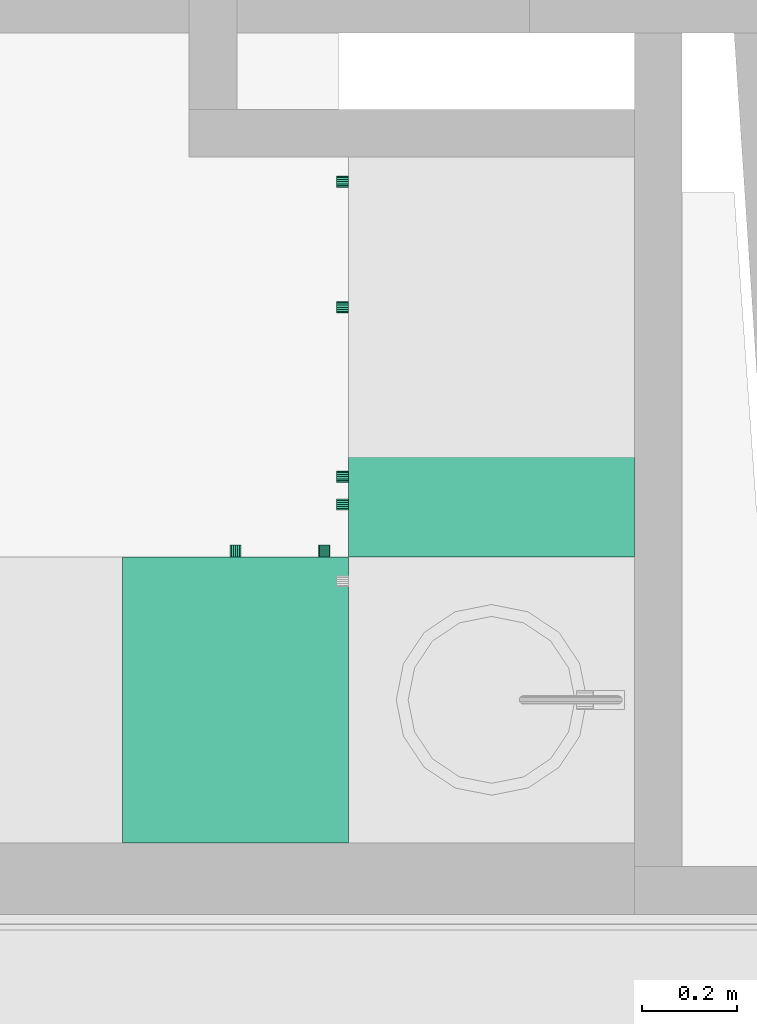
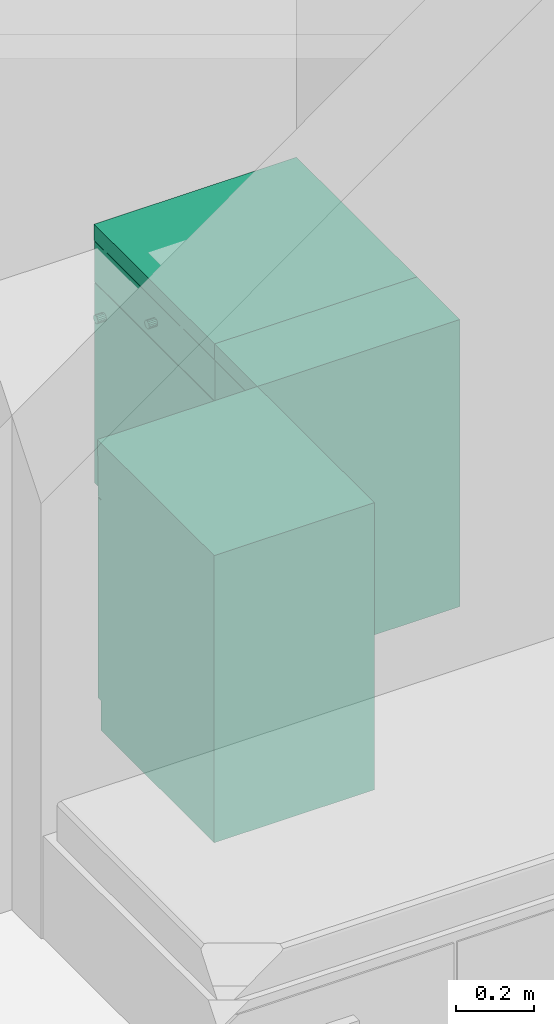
# One storey, part 52 of 165: 3 flow terminals.
"""IFC2X3 building model written with IfcOpenShell, lengths in millimetres."""

from ifc_helpers import new_model, entity, si_unit, converted_unit, money_unit, direction, frame, origin_with_axes, place, context, subcontext, project, spatial, faceted_brep, material, material_list, type_object, element, save


model = new_model("IFC2X3")

# Units and contexts
model_context = context("Model", 3, precision=1e-05, world=origin_with_axes(), true_north=direction((0.0, 1.0)))
body_context = subcontext(model_context, "Body", "Model", "MODEL_VIEW")
ifc_project = project(units=[si_unit("LENGTHUNIT", "METRE", prefix="MILLI"), si_unit("AREAUNIT", "SQUARE_METRE"), si_unit("VOLUMEUNIT", "CUBIC_METRE"), converted_unit("PLANEANGLEUNIT", "DEGREE", entity("IfcPlaneAngleMeasure", 0.0174532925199), si_unit("PLANEANGLEUNIT", "RADIAN"), dimensions=[0, 0, 0, 0, 0, 0, 0]), si_unit("SOLIDANGLEUNIT", "STERADIAN"), money_unit("USD"), converted_unit("TIMEUNIT", "Year", entity("IfcTimeMeasure", 31556926.0), si_unit("TIMEUNIT", "SECOND"), dimensions=[0, 0, 0, 0, 0, 0, 0]), si_unit("MASSUNIT", "GRAM"), si_unit("THERMODYNAMICTEMPERATUREUNIT", "DEGREE_CELSIUS"), si_unit("LUMINOUSINTENSITYUNIT", "LUMEN")], contexts=[model_context])

# Site, building, storey
site_placement = place(None, origin_with_axes())
site = spatial("IfcSite", under=ifc_project, at=site_placement, Name="Site", CompositionType="ELEMENT")
building_placement = place(site_placement, origin_with_axes())
building = spatial("IfcBuilding", under=site, at=building_placement, Name="Building", CompositionType="ELEMENT")
storey_placement = place(building_placement, frame((0.0, 0.0, 6300.0), z_axis=(0.0, 0.0, 1.0), x_axis=(1.0, 0.0, 0.0)))
storey = spatial("IfcBuildingStorey", under=building, at=storey_placement, Name="4KORRUS", CompositionType="ELEMENT", Elevation=6300.0)

# Flow terminals
ifc_material = material(Name="Background")
ifc_material_list = material_list([ifc_material])
sanitary_terminal_type = type_object("IfcSanitaryTerminalType", Name="Cabinet Base Single Door 19", PredefinedType="SINK")
flow_terminal_1_placement = place(storey_placement, frame((16561.5480058, -15138.0262806, 0.0), z_axis=(0.0, 0.0, 1.0), x_axis=(-1.0, 0.0, 0.0)))
element("IfcFlowTerminal", 1, at=flow_terminal_1_placement, inside=storey, type_object=sanitary_terminal_type, material=ifc_material_list, Name="FU - 007", context=body_context, shape_type="Brep", body=[
    faceted_brep([(-20.0, 20.0, 710.0), (-20.0, 20.0, 730.0), (-454.553, 20.0, 730.0), (-454.553, 20.0, 710.0), (-20.0, 580.0, 710.0), (-20.0, 580.0, 730.0), (-454.553, 580.0, 730.0), (-454.553, 580.0, 710.0)], [[[0, 1, 2, 3]], [[4, 5, 1, 0]], [[1, 5, 6, 2]], [[3, 2, 6, 7]], [[0, 3, 7, 4]], [[7, 6, 5, 4]]]),
    faceted_brep([(0.0, 20.0, 0.0), (0.0, 20.0, 90.0), (-474.553, 20.0, 90.0), (-474.553, 20.0, 0.0), (0.0, 600.0, 0.0), (0.0, 600.0, 90.0), (-474.553, 600.0, 90.0), (-474.553, 600.0, 0.0)], [[[0, 1, 2, 3]], [[4, 5, 1, 0]], [[1, 5, 6, 2]], [[3, 2, 6, 7]], [[0, 3, 7, 4]], [[7, 6, 5, 4]]]),
    faceted_brep([(0.0, 20.0, 830.0), (0.0, 20.0, 850.0), (-20.0, 20.0, 850.0), (-20.0, 20.0, 830.0), (0.0, 600.0, 830.0), (0.0, 600.0, 850.0), (-20.0, 600.0, 850.0), (-454.553, 600.0, 850.0), (-474.553, 600.0, 850.0), (-474.553, 20.0, 850.0), (-454.553, 20.0, 850.0), (-454.553, 20.0, 830.0), (-474.553, 20.0, 830.0), (-474.553, 600.0, 830.0), (-454.553, 600.0, 830.0), (-20.0, 600.0, 830.0)], [[[0, 1, 2, 3]], [[4, 5, 1, 0]], [[1, 5, 6, 7, 8, 9, 10, 2]], [[3, 2, 10, 11]], [[0, 3, 11, 12, 13, 14, 15, 4]], [[15, 6, 5, 4]], [[14, 7, 6, 15]], [[13, 8, 7, 14]], [[12, 9, 8, 13]], [[11, 10, 9, 12]]]),
    faceted_brep([(0.0, 20.0, 90.0), (0.0, 20.0, 110.0), (-20.0, 20.0, 110.0), (-20.0, 20.0, 90.0), (0.0, 600.0, 90.0), (0.0, 600.0, 110.0), (-20.0, 600.0, 110.0), (-454.553, 600.0, 110.0), (-474.553, 600.0, 110.0), (-474.553, 20.0, 110.0), (-454.553, 20.0, 110.0), (-454.553, 20.0, 90.0), (-474.553, 20.0, 90.0), (-474.553, 600.0, 90.0), (-454.553, 600.0, 90.0), (-20.0, 600.0, 90.0)], [[[0, 1, 2, 3]], [[4, 5, 1, 0]], [[1, 5, 6, 7, 8, 9, 10, 2]], [[3, 2, 10, 11]], [[0, 3, 11, 12, 13, 14, 15, 4]], [[15, 6, 5, 4]], [[14, 7, 6, 15]], [[13, 8, 7, 14]], [[12, 9, 8, 13]], [[11, 10, 9, 12]]]),
    faceted_brep([(0.0, 20.0, 110.0), (0.0, 20.0, 830.0), (-20.0, 20.0, 830.0), (-20.0, 20.0, 110.0), (0.0, 600.0, 110.0), (0.0, 600.0, 830.0), (-474.553, 600.0, 830.0), (-474.553, 20.0, 830.0), (-454.553, 20.0, 830.0), (-454.553, 580.0, 830.0), (-20.0, 580.0, 830.0), (-20.0, 580.0, 110.0), (-454.553, 580.0, 110.0), (-454.553, 20.0, 110.0), (-474.553, 20.0, 110.0), (-474.553, 600.0, 110.0)], [[[0, 1, 2, 3]], [[4, 5, 1, 0]], [[1, 5, 6, 7, 8, 9, 10, 2]], [[3, 2, 10, 11]], [[0, 3, 11, 12, 13, 14, 15, 4]], [[15, 6, 5, 4]], [[14, 7, 6, 15]], [[13, 8, 7, 14]], [[12, 9, 8, 13]], [[11, 10, 9, 12]]]),
    faceted_brep([(-454.553, 20.0, 385.0), (-454.553, 20.0, 405.0), (-454.553, 580.0, 405.0), (-454.553, 580.0, 385.0), (-20.0, 20.0, 385.0), (-20.0, 20.0, 405.0), (-20.0, 580.0, 405.0), (-20.0, 580.0, 385.0)], [[[0, 1, 2, 3]], [[4, 5, 1, 0]], [[1, 5, 6, 2]], [[3, 2, 6, 7]], [[0, 3, 7, 4]], [[7, 6, 5, 4]]]),
    faceted_brep([(0.0, 0.0, 850.0), (0.0, 0.0, 900.0), (-474.553, 0.0, 900.0), (-474.553, 0.0, 850.0), (0.0, 600.0, 850.0), (0.0, 600.0, 900.0), (-474.553, 600.0, 900.0), (-474.553, 600.0, 850.0)], [[[0, 1, 2, 3]], [[4, 5, 1, 0]], [[1, 5, 6, 2]], [[3, 2, 6, 7]], [[0, 3, 7, 4]], [[7, 6, 5, 4]]]),
    faceted_brep([(-1.5, 20.0, 721.5), (-1.5, 0.0, 721.5), (-473.053, 0.0, 721.5), (-473.053, 20.0, 721.5), (-1.5, 20.0, 848.5), (-1.5, 0.0, 848.5), (-473.053, 0.0, 848.5), (-473.053, 20.0, 848.5)], [[[0, 1, 2, 3]], [[4, 5, 1, 0]], [[1, 5, 6, 2]], [[3, 2, 6, 7]], [[0, 3, 7, 4]], [[7, 6, 5, 4]]]),
    faceted_brep([(-232.684, 0.0, 773.913), (-237.277, 0.0, 773.0), (-241.869, 0.0, 773.913), (-245.762, 0.0, 776.515), (-248.363, 0.0, 780.408), (-249.277, 0.0, 785.0), (-248.363, 0.0, 789.592), (-245.762, 0.0, 793.485), (-241.869, 0.0, 796.087), (-237.277, 0.0, 797.0), (-232.684, 0.0, 796.087), (-228.791, 0.0, 793.485), (-226.19, 0.0, 789.592), (-225.277, 0.0, 785.0), (-226.19, 0.0, 780.408), (-228.791, 0.0, 776.515), (-232.684, -25.0, 773.913), (-237.277, -25.0, 773.0), (-241.869, -25.0, 773.913), (-245.762, -25.0, 776.515), (-248.363, -25.0, 780.408), (-249.277, -25.0, 785.0), (-248.363, -25.0, 789.592), (-245.762, -25.0, 793.485), (-241.869, -25.0, 796.087), (-237.277, -25.0, 797.0), (-232.684, -25.0, 796.087), (-228.791, -25.0, 793.485), (-226.19, -25.0, 789.592), (-225.277, -25.0, 785.0), (-226.19, -25.0, 780.408), (-228.791, -25.0, 776.515)], [[[0, 1, 2, 3, 4, 5, 6, 7, 8, 9, 10, 11, 12, 13, 14, 15]], [[0, 16, 17, 1]], [[1, 17, 18, 2]], [[2, 18, 19, 3]], [[3, 19, 20, 4]], [[4, 20, 21, 5]], [[5, 21, 22, 6]], [[6, 22, 23, 7]], [[7, 23, 24, 8]], [[8, 24, 25, 9]], [[9, 25, 26, 10]], [[10, 26, 27, 11]], [[11, 27, 28, 12]], [[12, 28, 29, 13]], [[13, 29, 30, 14]], [[14, 30, 31, 15]], [[15, 31, 16, 0]], [[16, 31, 30, 29, 28, 27, 26, 25, 24, 23, 22, 21, 20, 19, 18, 17]]]),
    faceted_brep([(-1.5, 20.0, 91.5), (-1.5, 0.0, 91.5), (-473.053, 0.0, 91.5), (-473.053, 20.0, 91.5), (-1.5, 20.0, 718.5), (-1.5, 0.0, 718.5), (-473.053, 0.0, 718.5), (-473.053, 20.0, 718.5)], [[[0, 1, 2, 3]], [[4, 5, 1, 0]], [[1, 5, 6, 2]], [[3, 2, 6, 7]], [[0, 3, 7, 4]], [[7, 6, 5, 4]]]),
    faceted_brep([(-434.14, 0.0, 636.908), (-435.053, 0.0, 641.5), (-434.14, 0.0, 646.092), (-431.538, 0.0, 649.985), (-427.645, 0.0, 652.587), (-423.053, 0.0, 653.5), (-418.461, 0.0, 652.587), (-414.568, 0.0, 649.985), (-411.967, 0.0, 646.092), (-411.053, 0.0, 641.5), (-411.967, 0.0, 636.908), (-414.568, 0.0, 633.015), (-418.461, 0.0, 630.413), (-423.053, 0.0, 629.5), (-427.645, 0.0, 630.413), (-431.538, 0.0, 633.015), (-434.14, -25.0, 636.908), (-435.053, -25.0, 641.5), (-434.14, -25.0, 646.092), (-431.538, -25.0, 649.985), (-427.645, -25.0, 652.587), (-423.053, -25.0, 653.5), (-418.461, -25.0, 652.587), (-414.568, -25.0, 649.985), (-411.967, -25.0, 646.092), (-411.053, -25.0, 641.5), (-411.967, -25.0, 636.908), (-414.568, -25.0, 633.015), (-418.461, -25.0, 630.413), (-423.053, -25.0, 629.5), (-427.645, -25.0, 630.413), (-431.538, -25.0, 633.015)], [[[0, 1, 2, 3, 4, 5, 6, 7, 8, 9, 10, 11, 12, 13, 14, 15]], [[0, 16, 17, 1]], [[1, 17, 18, 2]], [[2, 18, 19, 3]], [[3, 19, 20, 4]], [[4, 20, 21, 5]], [[5, 21, 22, 6]], [[6, 22, 23, 7]], [[7, 23, 24, 8]], [[8, 24, 25, 9]], [[9, 25, 26, 10]], [[10, 26, 27, 11]], [[11, 27, 28, 12]], [[12, 28, 29, 13]], [[13, 29, 30, 14]], [[14, 30, 31, 15]], [[15, 31, 16, 0]], [[16, 31, 30, 29, 28, 27, 26, 25, 24, 23, 22, 21, 20, 19, 18, 17]]]),
])
flow_terminal_2_placement = place(storey_placement, frame((17036.1011863, -15138.0262806, 0.0), z_axis=(0.0, 0.0, 1.0), x_axis=(0.0, -1.0, 0.0)))
element("IfcFlowTerminal", 2, at=flow_terminal_2_placement, inside=storey, type_object=sanitary_terminal_type, material=ifc_material_list, Name="FU - 007", context=body_context, shape_type="Brep", body=[
    faceted_brep([(-20.0, 20.0, 710.0), (-20.0, 20.0, 730.0), (-200.0, 20.0, 730.0), (-200.0, 20.0, 710.0), (-20.0, 580.0, 710.0), (-20.0, 580.0, 730.0), (-200.0, 580.0, 730.0), (-200.0, 580.0, 710.0)], [[[0, 1, 2, 3]], [[4, 5, 1, 0]], [[1, 5, 6, 2]], [[3, 2, 6, 7]], [[0, 3, 7, 4]], [[7, 6, 5, 4]]]),
    faceted_brep([(0.0, 20.0, 0.0), (0.0, 20.0, 90.0), (-220.0, 20.0, 90.0), (-220.0, 20.0, 0.0), (0.0, 600.0, 0.0), (0.0, 600.0, 90.0), (-220.0, 600.0, 90.0), (-220.0, 600.0, 0.0)], [[[0, 1, 2, 3]], [[4, 5, 1, 0]], [[1, 5, 6, 2]], [[3, 2, 6, 7]], [[0, 3, 7, 4]], [[7, 6, 5, 4]]]),
    faceted_brep([(0.0, 20.0, 830.0), (0.0, 20.0, 850.0), (-20.0, 20.0, 850.0), (-20.0, 20.0, 830.0), (0.0, 600.0, 830.0), (0.0, 600.0, 850.0), (-20.0, 600.0, 850.0), (-200.0, 600.0, 850.0), (-220.0, 600.0, 850.0), (-220.0, 20.0, 850.0), (-200.0, 20.0, 850.0), (-200.0, 20.0, 830.0), (-220.0, 20.0, 830.0), (-220.0, 600.0, 830.0), (-200.0, 600.0, 830.0), (-20.0, 600.0, 830.0)], [[[0, 1, 2, 3]], [[4, 5, 1, 0]], [[1, 5, 6, 7, 8, 9, 10, 2]], [[3, 2, 10, 11]], [[0, 3, 11, 12, 13, 14, 15, 4]], [[15, 6, 5, 4]], [[14, 7, 6, 15]], [[13, 8, 7, 14]], [[12, 9, 8, 13]], [[11, 10, 9, 12]]]),
    faceted_brep([(0.0, 20.0, 90.0), (0.0, 20.0, 110.0), (-20.0, 20.0, 110.0), (-20.0, 20.0, 90.0), (0.0, 600.0, 90.0), (0.0, 600.0, 110.0), (-20.0, 600.0, 110.0), (-200.0, 600.0, 110.0), (-220.0, 600.0, 110.0), (-220.0, 20.0, 110.0), (-200.0, 20.0, 110.0), (-200.0, 20.0, 90.0), (-220.0, 20.0, 90.0), (-220.0, 600.0, 90.0), (-200.0, 600.0, 90.0), (-20.0, 600.0, 90.0)], [[[0, 1, 2, 3]], [[4, 5, 1, 0]], [[1, 5, 6, 7, 8, 9, 10, 2]], [[3, 2, 10, 11]], [[0, 3, 11, 12, 13, 14, 15, 4]], [[15, 6, 5, 4]], [[14, 7, 6, 15]], [[13, 8, 7, 14]], [[12, 9, 8, 13]], [[11, 10, 9, 12]]]),
    faceted_brep([(0.0, 20.0, 110.0), (0.0, 20.0, 830.0), (-20.0, 20.0, 830.0), (-20.0, 20.0, 110.0), (0.0, 600.0, 110.0), (0.0, 600.0, 830.0), (-220.0, 600.0, 830.0), (-220.0, 20.0, 830.0), (-200.0, 20.0, 830.0), (-200.0, 580.0, 830.0), (-20.0, 580.0, 830.0), (-20.0, 580.0, 110.0), (-200.0, 580.0, 110.0), (-200.0, 20.0, 110.0), (-220.0, 20.0, 110.0), (-220.0, 600.0, 110.0)], [[[0, 1, 2, 3]], [[4, 5, 1, 0]], [[1, 5, 6, 7, 8, 9, 10, 2]], [[3, 2, 10, 11]], [[0, 3, 11, 12, 13, 14, 15, 4]], [[15, 6, 5, 4]], [[14, 7, 6, 15]], [[13, 8, 7, 14]], [[12, 9, 8, 13]], [[11, 10, 9, 12]]]),
    faceted_brep([(-200.0, 20.0, 385.0), (-200.0, 20.0, 405.0), (-200.0, 580.0, 405.0), (-200.0, 580.0, 385.0), (-20.0, 20.0, 385.0), (-20.0, 20.0, 405.0), (-20.0, 580.0, 405.0), (-20.0, 580.0, 385.0)], [[[0, 1, 2, 3]], [[4, 5, 1, 0]], [[1, 5, 6, 2]], [[3, 2, 6, 7]], [[0, 3, 7, 4]], [[7, 6, 5, 4]]]),
    faceted_brep([(0.0, 0.0, 850.0), (0.0, 0.0, 900.0), (-220.0, 0.0, 900.0), (-220.0, 0.0, 850.0), (0.0, 600.0, 850.0), (0.0, 600.0, 900.0), (-220.0, 600.0, 900.0), (-220.0, 600.0, 850.0)], [[[0, 1, 2, 3]], [[4, 5, 1, 0]], [[1, 5, 6, 2]], [[3, 2, 6, 7]], [[0, 3, 7, 4]], [[7, 6, 5, 4]]]),
    faceted_brep([(-1.5, 20.0, 721.5), (-1.5, 0.0, 721.5), (-218.5, 0.0, 721.5), (-218.5, 20.0, 721.5), (-1.5, 20.0, 848.5), (-1.5, 0.0, 848.5), (-218.5, 0.0, 848.5), (-218.5, 20.0, 848.5)], [[[0, 1, 2, 3]], [[4, 5, 1, 0]], [[1, 5, 6, 2]], [[3, 2, 6, 7]], [[0, 3, 7, 4]], [[7, 6, 5, 4]]]),
    faceted_brep([(-105.408, 0.0, 773.913), (-110.0, 0.0, 773.0), (-114.592, 0.0, 773.913), (-118.485, 0.0, 776.515), (-121.087, 0.0, 780.408), (-122.0, 0.0, 785.0), (-121.087, 0.0, 789.592), (-118.485, 0.0, 793.485), (-114.592, 0.0, 796.087), (-110.0, 0.0, 797.0), (-105.408, 0.0, 796.087), (-101.515, 0.0, 793.485), (-98.913, 0.0, 789.592), (-98.0, 0.0, 785.0), (-98.913, 0.0, 780.408), (-101.515, 0.0, 776.515), (-105.408, -25.0, 773.913), (-110.0, -25.0, 773.0), (-114.592, -25.0, 773.913), (-118.485, -25.0, 776.515), (-121.087, -25.0, 780.408), (-122.0, -25.0, 785.0), (-121.087, -25.0, 789.592), (-118.485, -25.0, 793.485), (-114.592, -25.0, 796.087), (-110.0, -25.0, 797.0), (-105.408, -25.0, 796.087), (-101.515, -25.0, 793.485), (-98.913, -25.0, 789.592), (-98.0, -25.0, 785.0), (-98.913, -25.0, 780.408), (-101.515, -25.0, 776.515)], [[[0, 1, 2, 3, 4, 5, 6, 7, 8, 9, 10, 11, 12, 13, 14, 15]], [[0, 16, 17, 1]], [[1, 17, 18, 2]], [[2, 18, 19, 3]], [[3, 19, 20, 4]], [[4, 20, 21, 5]], [[5, 21, 22, 6]], [[6, 22, 23, 7]], [[7, 23, 24, 8]], [[8, 24, 25, 9]], [[9, 25, 26, 10]], [[10, 26, 27, 11]], [[11, 27, 28, 12]], [[12, 28, 29, 13]], [[13, 29, 30, 14]], [[14, 30, 31, 15]], [[15, 31, 16, 0]], [[16, 31, 30, 29, 28, 27, 26, 25, 24, 23, 22, 21, 20, 19, 18, 17]]]),
    faceted_brep([(-1.5, 20.0, 91.5), (-1.5, 0.0, 91.5), (-218.5, 0.0, 91.5), (-218.5, 20.0, 91.5), (-1.5, 20.0, 718.5), (-1.5, 0.0, 718.5), (-218.5, 0.0, 718.5), (-218.5, 20.0, 718.5)], [[[0, 1, 2, 3]], [[4, 5, 1, 0]], [[1, 5, 6, 2]], [[3, 2, 6, 7]], [[0, 3, 7, 4]], [[7, 6, 5, 4]]]),
    faceted_brep([(-179.587, 0.0, 636.908), (-180.5, 0.0, 641.5), (-179.587, 0.0, 646.092), (-176.985, 0.0, 649.985), (-173.092, 0.0, 652.587), (-168.5, 0.0, 653.5), (-163.908, 0.0, 652.587), (-160.015, 0.0, 649.985), (-157.413, 0.0, 646.092), (-156.5, 0.0, 641.5), (-157.413, 0.0, 636.908), (-160.015, 0.0, 633.015), (-163.908, 0.0, 630.413), (-168.5, 0.0, 629.5), (-173.092, 0.0, 630.413), (-176.985, 0.0, 633.015), (-179.587, -25.0, 636.908), (-180.5, -25.0, 641.5), (-179.587, -25.0, 646.092), (-176.985, -25.0, 649.985), (-173.092, -25.0, 652.587), (-168.5, -25.0, 653.5), (-163.908, -25.0, 652.587), (-160.015, -25.0, 649.985), (-157.413, -25.0, 646.092), (-156.5, -25.0, 641.5), (-157.413, -25.0, 636.908), (-160.015, -25.0, 633.015), (-163.908, -25.0, 630.413), (-168.5, -25.0, 629.5), (-173.092, -25.0, 630.413), (-176.985, -25.0, 633.015)], [[[0, 1, 2, 3, 4, 5, 6, 7, 8, 9, 10, 11, 12, 13, 14, 15]], [[0, 16, 17, 1]], [[1, 17, 18, 2]], [[2, 18, 19, 3]], [[3, 19, 20, 4]], [[4, 20, 21, 5]], [[5, 21, 22, 6]], [[6, 22, 23, 7]], [[7, 23, 24, 8]], [[8, 24, 25, 9]], [[9, 25, 26, 10]], [[10, 26, 27, 11]], [[11, 27, 28, 12]], [[12, 28, 29, 13]], [[13, 29, 30, 14]], [[14, 30, 31, 15]], [[15, 31, 16, 0]], [[16, 31, 30, 29, 28, 27, 26, 25, 24, 23, 22, 21, 20, 19, 18, 17]]]),
])
flow_terminal_3_placement = place(storey_placement, frame((17036.1011863, -14929.217174, 0.0), z_axis=(0.0, 0.0, 1.0), x_axis=(0.0, -1.0, 0.0)))
element("IfcFlowTerminal", 3, at=flow_terminal_3_placement, inside=storey, type_object=sanitary_terminal_type, material=ifc_material_list, Name="FU - 007", context=body_context, shape_type="Brep", body=[
    faceted_brep([(-20.0, 20.0, 710.0), (-20.0, 20.0, 730.0), (-609.977, 20.0, 730.0), (-609.977, 20.0, 710.0), (-20.0, 580.0, 710.0), (-20.0, 580.0, 730.0), (-609.977, 580.0, 730.0), (-609.977, 580.0, 710.0)], [[[0, 1, 2, 3]], [[4, 5, 1, 0]], [[1, 5, 6, 2]], [[3, 2, 6, 7]], [[0, 3, 7, 4]], [[7, 6, 5, 4]]]),
    faceted_brep([(0.0, 20.0, 0.0), (0.0, 20.0, 90.0), (-629.977, 20.0, 90.0), (-629.977, 20.0, 0.0), (0.0, 600.0, 0.0), (0.0, 600.0, 90.0), (-629.977, 600.0, 90.0), (-629.977, 600.0, 0.0)], [[[0, 1, 2, 3]], [[4, 5, 1, 0]], [[1, 5, 6, 2]], [[3, 2, 6, 7]], [[0, 3, 7, 4]], [[7, 6, 5, 4]]]),
    faceted_brep([(0.0, 20.0, 830.0), (0.0, 20.0, 850.0), (-20.0, 20.0, 850.0), (-20.0, 20.0, 830.0), (0.0, 600.0, 830.0), (0.0, 600.0, 850.0), (-20.0, 600.0, 850.0), (-609.977, 600.0, 850.0), (-629.977, 600.0, 850.0), (-629.977, 20.0, 850.0), (-609.977, 20.0, 850.0), (-609.977, 20.0, 830.0), (-629.977, 20.0, 830.0), (-629.977, 600.0, 830.0), (-609.977, 600.0, 830.0), (-20.0, 600.0, 830.0)], [[[0, 1, 2, 3]], [[4, 5, 1, 0]], [[1, 5, 6, 7, 8, 9, 10, 2]], [[3, 2, 10, 11]], [[0, 3, 11, 12, 13, 14, 15, 4]], [[15, 6, 5, 4]], [[14, 7, 6, 15]], [[13, 8, 7, 14]], [[12, 9, 8, 13]], [[11, 10, 9, 12]]]),
    faceted_brep([(0.0, 20.0, 90.0), (0.0, 20.0, 110.0), (-20.0, 20.0, 110.0), (-20.0, 20.0, 90.0), (0.0, 600.0, 90.0), (0.0, 600.0, 110.0), (-20.0, 600.0, 110.0), (-609.977, 600.0, 110.0), (-629.977, 600.0, 110.0), (-629.977, 20.0, 110.0), (-609.977, 20.0, 110.0), (-609.977, 20.0, 90.0), (-629.977, 20.0, 90.0), (-629.977, 600.0, 90.0), (-609.977, 600.0, 90.0), (-20.0, 600.0, 90.0)], [[[0, 1, 2, 3]], [[4, 5, 1, 0]], [[1, 5, 6, 7, 8, 9, 10, 2]], [[3, 2, 10, 11]], [[0, 3, 11, 12, 13, 14, 15, 4]], [[15, 6, 5, 4]], [[14, 7, 6, 15]], [[13, 8, 7, 14]], [[12, 9, 8, 13]], [[11, 10, 9, 12]]]),
    faceted_brep([(0.0, 20.0, 110.0), (0.0, 20.0, 830.0), (-20.0, 20.0, 830.0), (-20.0, 20.0, 110.0), (0.0, 600.0, 110.0), (0.0, 600.0, 830.0), (-629.977, 600.0, 830.0), (-629.977, 20.0, 830.0), (-609.977, 20.0, 830.0), (-609.977, 580.0, 830.0), (-20.0, 580.0, 830.0), (-20.0, 580.0, 110.0), (-609.977, 580.0, 110.0), (-609.977, 20.0, 110.0), (-629.977, 20.0, 110.0), (-629.977, 600.0, 110.0)], [[[0, 1, 2, 3]], [[4, 5, 1, 0]], [[1, 5, 6, 7, 8, 9, 10, 2]], [[3, 2, 10, 11]], [[0, 3, 11, 12, 13, 14, 15, 4]], [[15, 6, 5, 4]], [[14, 7, 6, 15]], [[13, 8, 7, 14]], [[12, 9, 8, 13]], [[11, 10, 9, 12]]]),
    faceted_brep([(-609.977, 20.0, 385.0), (-609.977, 20.0, 405.0), (-609.977, 580.0, 405.0), (-609.977, 580.0, 385.0), (-20.0, 20.0, 385.0), (-20.0, 20.0, 405.0), (-20.0, 580.0, 405.0), (-20.0, 580.0, 385.0)], [[[0, 1, 2, 3]], [[4, 5, 1, 0]], [[1, 5, 6, 2]], [[3, 2, 6, 7]], [[0, 3, 7, 4]], [[7, 6, 5, 4]]]),
    faceted_brep([(0.0, 0.0, 850.0), (0.0, 0.0, 900.0), (-629.977, 0.0, 900.0), (-629.977, 0.0, 850.0), (0.0, 600.0, 850.0), (0.0, 600.0, 900.0), (-629.977, 600.0, 900.0), (-629.977, 600.0, 850.0)], [[[0, 1, 2, 3]], [[4, 5, 1, 0]], [[1, 5, 6, 2]], [[3, 2, 6, 7]], [[0, 3, 7, 4]], [[7, 6, 5, 4]]]),
    faceted_brep([(-1.5, 20.0, 721.5), (-1.5, 0.0, 721.5), (-628.477, 0.0, 721.5), (-628.477, 20.0, 721.5), (-1.5, 20.0, 848.5), (-1.5, 0.0, 848.5), (-628.477, 0.0, 848.5), (-628.477, 20.0, 848.5)], [[[0, 1, 2, 3]], [[4, 5, 1, 0]], [[1, 5, 6, 2]], [[3, 2, 6, 7]], [[0, 3, 7, 4]], [[7, 6, 5, 4]]]),
    faceted_brep([(-310.396, 0.0, 773.913), (-314.989, 0.0, 773.0), (-319.581, 0.0, 773.913), (-323.474, 0.0, 776.515), (-326.075, 0.0, 780.408), (-326.989, 0.0, 785.0), (-326.075, 0.0, 789.592), (-323.474, 0.0, 793.485), (-319.581, 0.0, 796.087), (-314.989, 0.0, 797.0), (-310.396, 0.0, 796.087), (-306.503, 0.0, 793.485), (-303.902, 0.0, 789.592), (-302.989, 0.0, 785.0), (-303.902, 0.0, 780.408), (-306.503, 0.0, 776.515), (-310.396, -25.0, 773.913), (-314.989, -25.0, 773.0), (-319.581, -25.0, 773.913), (-323.474, -25.0, 776.515), (-326.075, -25.0, 780.408), (-326.989, -25.0, 785.0), (-326.075, -25.0, 789.592), (-323.474, -25.0, 793.485), (-319.581, -25.0, 796.087), (-314.989, -25.0, 797.0), (-310.396, -25.0, 796.087), (-306.503, -25.0, 793.485), (-303.902, -25.0, 789.592), (-302.989, -25.0, 785.0), (-303.902, -25.0, 780.408), (-306.503, -25.0, 776.515)], [[[0, 1, 2, 3, 4, 5, 6, 7, 8, 9, 10, 11, 12, 13, 14, 15]], [[0, 16, 17, 1]], [[1, 17, 18, 2]], [[2, 18, 19, 3]], [[3, 19, 20, 4]], [[4, 20, 21, 5]], [[5, 21, 22, 6]], [[6, 22, 23, 7]], [[7, 23, 24, 8]], [[8, 24, 25, 9]], [[9, 25, 26, 10]], [[10, 26, 27, 11]], [[11, 27, 28, 12]], [[12, 28, 29, 13]], [[13, 29, 30, 14]], [[14, 30, 31, 15]], [[15, 31, 16, 0]], [[16, 31, 30, 29, 28, 27, 26, 25, 24, 23, 22, 21, 20, 19, 18, 17]]]),
    faceted_brep([(-1.5, 20.0, 91.5), (-1.5, 0.0, 91.5), (-628.477, 0.0, 91.5), (-628.477, 20.0, 91.5), (-1.5, 20.0, 718.5), (-1.5, 0.0, 718.5), (-628.477, 0.0, 718.5), (-628.477, 20.0, 718.5)], [[[0, 1, 2, 3]], [[4, 5, 1, 0]], [[1, 5, 6, 2]], [[3, 2, 6, 7]], [[0, 3, 7, 4]], [[7, 6, 5, 4]]]),
    faceted_brep([(-589.564, 0.0, 636.908), (-590.477, 0.0, 641.5), (-589.564, 0.0, 646.092), (-586.963, 0.0, 649.985), (-583.069, 0.0, 652.587), (-578.477, 0.0, 653.5), (-573.885, 0.0, 652.587), (-569.992, 0.0, 649.985), (-567.391, 0.0, 646.092), (-566.477, 0.0, 641.5), (-567.391, 0.0, 636.908), (-569.992, 0.0, 633.015), (-573.885, 0.0, 630.413), (-578.477, 0.0, 629.5), (-583.069, 0.0, 630.413), (-586.963, 0.0, 633.015), (-589.564, -25.0, 636.908), (-590.477, -25.0, 641.5), (-589.564, -25.0, 646.092), (-586.963, -25.0, 649.985), (-583.069, -25.0, 652.587), (-578.477, -25.0, 653.5), (-573.885, -25.0, 652.587), (-569.992, -25.0, 649.985), (-567.391, -25.0, 646.092), (-566.477, -25.0, 641.5), (-567.391, -25.0, 636.908), (-569.992, -25.0, 633.015), (-573.885, -25.0, 630.413), (-578.477, -25.0, 629.5), (-583.069, -25.0, 630.413), (-586.963, -25.0, 633.015)], [[[0, 1, 2, 3, 4, 5, 6, 7, 8, 9, 10, 11, 12, 13, 14, 15]], [[0, 16, 17, 1]], [[1, 17, 18, 2]], [[2, 18, 19, 3]], [[3, 19, 20, 4]], [[4, 20, 21, 5]], [[5, 21, 22, 6]], [[6, 22, 23, 7]], [[7, 23, 24, 8]], [[8, 24, 25, 9]], [[9, 25, 26, 10]], [[10, 26, 27, 11]], [[11, 27, 28, 12]], [[12, 28, 29, 13]], [[13, 29, 30, 14]], [[14, 30, 31, 15]], [[15, 31, 16, 0]], [[16, 31, 30, 29, 28, 27, 26, 25, 24, 23, 22, 21, 20, 19, 18, 17]]]),
])

save(model, "model.ifc")
